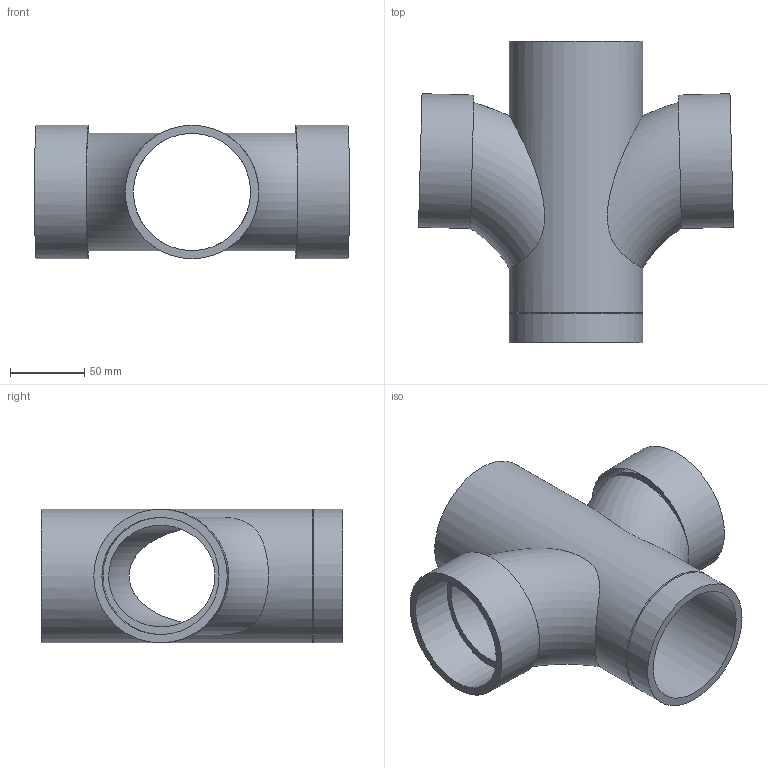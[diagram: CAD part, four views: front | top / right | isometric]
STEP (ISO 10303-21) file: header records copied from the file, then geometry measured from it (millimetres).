
FILE_DESCRIPTION(/* description */ (''),/* implementation_level */ '2;1');
FILE_NAME(/* name */ 'Z:\Geberit\Export\NewStep\DoppelAbzweigMax_Ipart\stp\308082.stp',/* time_stamp */ '2014-04-03T18:07:31+02:00',/* author */ ('ML'),/* organization */ (''),/* preprocessor_version */ 'ST-DEVELOPER v15.2',/* originating_system */ 'Autodesk Inventor 2014',/* authorisation */ '');
FILE_SCHEMA (('AUTOMOTIVE_DESIGN { 1 0 10303 214 3 1 1 }'));
Length unit declared in the file: millimetre
Products named in the file (1): 308082
Bounding box: 212.28 x 203 x 90 mm (x, y, z)
Volume: 455953.5 mm3; surface area: 171754 mm2
Topology: 1 solids, 1 shells, 22 faces, 43 edges, 27 vertices
Faces by surface type: plane 8, cylinder 7, torus 5, cone 2
Full cylindrical faces by diameter (mm): 79 x3, 90 x4
Entity records: 943 total; most frequent: CARTESIAN_POINT 520, DIRECTION 76, ORIENTED_EDGE 50, EDGE_LOOP 47, AXIS2_PLACEMENT_3D 38, FACE_BOUND 35, EDGE_CURVE 25, VERTEX_POINT 24
